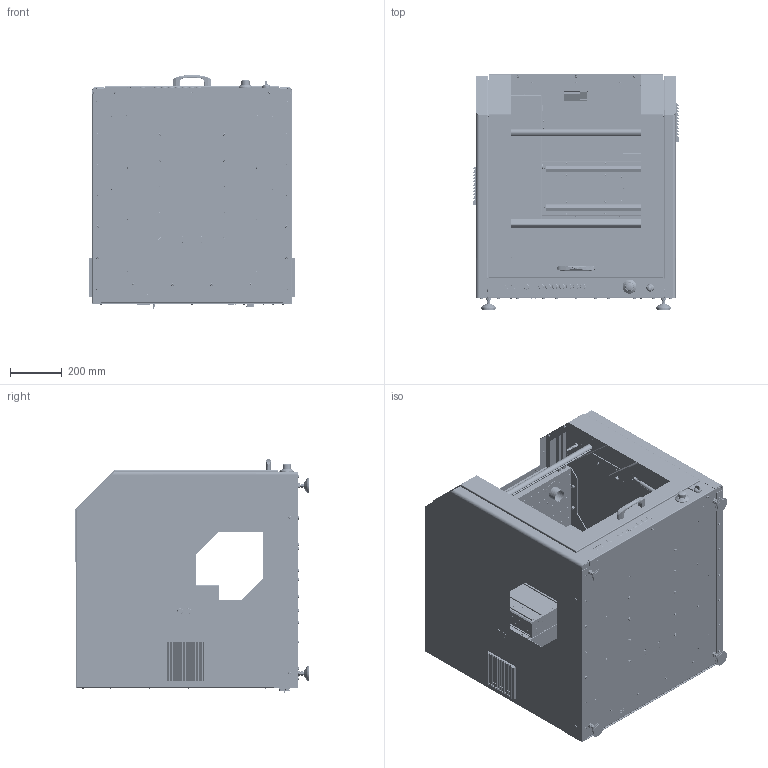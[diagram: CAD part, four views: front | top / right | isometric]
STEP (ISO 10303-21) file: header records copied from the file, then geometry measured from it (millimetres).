
FILE_DESCRIPTION (( 'STEP AP203' ), '1' );
FILE_NAME ('DU8000 - ICP-4030-S.STEP', '2017-06-27T08:33:22', ( '' ), ( '' ), 'SwSTEP 2.0', 'SolidWorks 2016', '' );
FILE_SCHEMA (( 'CONFIG_CONTROL_DESIGN' ));
Products named in the file (1): DU8000 - ICP-4030-S
Bounding box: 796 x 906 x 903.55 mm (x, y, z)
Volume: 25530700.4 mm3; surface area: 17776937 mm2
Topology: 473 solids, 473 shells, 25915 faces, 68830 edges, 44514 vertices
Faces by surface type: plane 20447, cylinder 3452, cone 1099, bspline 439, torus 344, sphere 134
Full cylindrical faces by diameter (mm): 1 x30, 1.5 x15, 2 x6, 2.05 x2, 2.5 x78, 2.509 x12, 2.6 x4, 2.9 x2, 3 x99, 3.2 x95, 3.3 x65, 3.4 x29, 3.5 x45, 3.588 x2, 4 x182, 4.134 x2, 4.2 x28, 4.3 x19, 4.304 x2, 4.5 x39, 4.554 x41, 4.819 x4, 4.917 x2, 5 x87, 5.2 x14, 5.3 x2, 5.5 x18, 5.9 x41, 6 x198, 6.2 x2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
Entity records: 809793 total; most frequent: CARTESIAN_POINT 178481, ORIENTED_EDGE 130908, DIRECTION 122197, EDGE_CURVE 65454, LINE 52737, VECTOR 52737, VERTEX_POINT 43935, AXIS2_PLACEMENT_3D 34730
